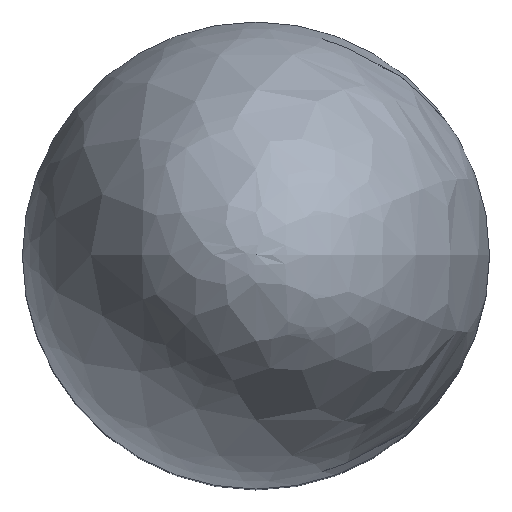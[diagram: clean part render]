
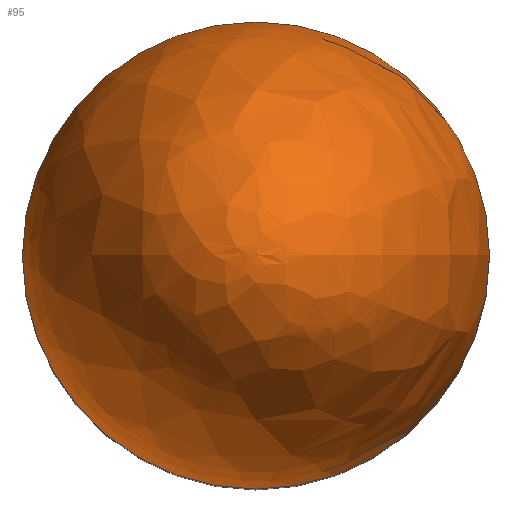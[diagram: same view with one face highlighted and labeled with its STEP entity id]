
A CAD part, top view. The second image highlights one B-rep face of the part: STEP entity #95.
In plain terms, the highlighted free-form (B-spline) face has degree [2, 2] with [3, 9] control points.
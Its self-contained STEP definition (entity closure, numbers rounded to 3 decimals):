
#27=CARTESIAN_POINT('',(13.5,0.,81.));
#28=VERTEX_POINT('',#27);
#35=CARTESIAN_POINT('',(0.,0.,81.));
#36=DIRECTION('',(1.,0.,0.));
#37=DIRECTION('',(0.,0.,1.));
#38=AXIS2_PLACEMENT_3D('',#35,#37,#36);
#39=CIRCLE('',#38,13.5);
#40=EDGE_CURVE('',#28,#28,#39,.T.);
#53=CARTESIAN_POINT('',(13.5,0.,81.));
#54=CARTESIAN_POINT('',(13.5,13.5,81.));
#55=CARTESIAN_POINT('',(0.,13.5,81.));
#56=CARTESIAN_POINT('',(-13.5,13.5,81.));
#57=CARTESIAN_POINT('',(-13.5,0.,81.));
#58=CARTESIAN_POINT('',(-13.5,-13.5,81.));
#59=CARTESIAN_POINT('',(0.,-13.5,81.));
#60=CARTESIAN_POINT('',(13.5,-13.5,81.));
#61=CARTESIAN_POINT('',(13.5,0.,81.));
#62=CARTESIAN_POINT('',(13.5,0.,108.));
#63=CARTESIAN_POINT('',(13.5,13.5,108.));
#64=CARTESIAN_POINT('',(0.,13.5,108.));
#65=CARTESIAN_POINT('',(-13.5,13.5,108.));
#66=CARTESIAN_POINT('',(-13.5,0.,108.));
#67=CARTESIAN_POINT('',(-13.5,-13.5,108.));
#68=CARTESIAN_POINT('',(0.,-13.5,108.));
#69=CARTESIAN_POINT('',(13.5,-13.5,108.));
#70=CARTESIAN_POINT('',(13.5,0.,108.));
#71=CARTESIAN_POINT('',(0.,0.,108.));
#72=CARTESIAN_POINT('',(0.,0.,108.));
#73=CARTESIAN_POINT('',(0.,0.,108.));
#74=CARTESIAN_POINT('',(0.,0.,108.));
#75=CARTESIAN_POINT('',(0.,0.,108.));
#76=CARTESIAN_POINT('',(0.,0.,108.));
#77=CARTESIAN_POINT('',(0.,0.,108.));
#78=CARTESIAN_POINT('',(0.,0.,108.));
#79=CARTESIAN_POINT('',(0.,0.,108.));
#80=(BOUNDED_SURFACE()B_SPLINE_SURFACE(2,2,((#53,#54,#55,#56,#57,#58,#59,#60,#61),(#62,#63,#64,#65,#66,#67,#68,#69,#70),(#71,#72,#73,#74,#75,#76,#77,#78,#79)),.UNSPECIFIED.,.F.,.T.,.U.)B_SPLINE_SURFACE_WITH_KNOTS((3,3),(3,2,2,2,3),(1.,1.25),(0.,0.25,0.5,0.75,1.),.UNSPECIFIED.)GEOMETRIC_REPRESENTATION_ITEM()RATIONAL_B_SPLINE_SURFACE(((1.,0.707,1.,0.707,1.,0.707,1.,0.707,1.),(0.707,0.5,0.707,0.5,0.707,0.5,0.707,0.5,0.707),(1.,0.707,1.,0.707,1.,0.707,1.,0.707,1.)))REPRESENTATION_ITEM('')SURFACE());
#81=CARTESIAN_POINT('',(0.,0.,108.));
#82=VERTEX_POINT('',#81);
#83=CARTESIAN_POINT('',(0.,0.,81.));
#84=DIRECTION('',(0.,0.,-1.));
#85=DIRECTION('',(0.,-1.,0.));
#86=AXIS2_PLACEMENT_3D('',#83,#85,#84);
#87=ELLIPSE('',#86,27.,13.5);
#88=TRIMMED_CURVE('',#87,(PARAMETER_VALUE(1.571)),(PARAMETER_VALUE(3.142)),.T.,.PARAMETER.);
#89=EDGE_CURVE('',#28,#82,#88,.T.);
#90=ORIENTED_EDGE('E3',*,*,#89,.T.);
#91=ORIENTED_EDGE('E7',*,*,#89,.F.);
#92=ORIENTED_EDGE('E7',*,*,#40,.F.);
#93=EDGE_LOOP('',(#90,#91,#92));
#94=FACE_OUTER_BOUND('',#93,.F.);
#95=ADVANCED_FACE('F4',(#94),#80,.F.);
